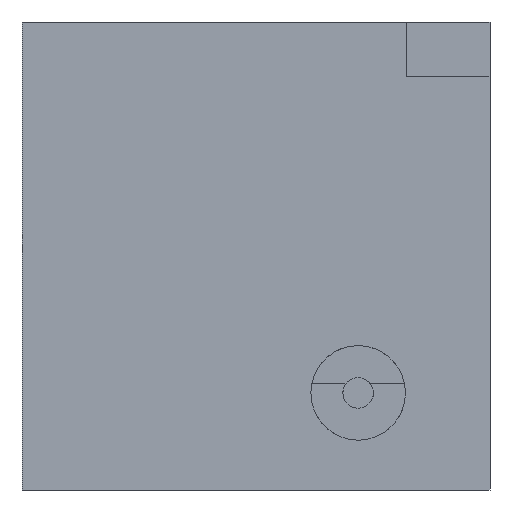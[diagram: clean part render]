
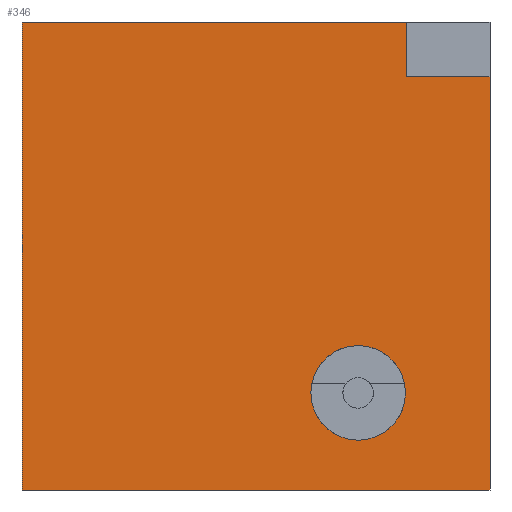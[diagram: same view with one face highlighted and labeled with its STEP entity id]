
A CAD part, front view. The second image highlights one B-rep face of the part: STEP entity #346.
In plain terms, the highlighted planar face has unit normal (0, -1, 0).
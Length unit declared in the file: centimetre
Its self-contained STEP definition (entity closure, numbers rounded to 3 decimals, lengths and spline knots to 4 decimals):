
#5 = PLANE ( 'NONE',  #1586 ) ;
#124 = EDGE_LOOP ( 'NONE', ( #505, #965, #1036, #295, #1476, #1469 ) ) ;
#145 = VECTOR ( 'NONE', #1052, 100. ) ;
#161 = CARTESIAN_POINT ( 'NONE',  ( 1000., 0., 0. ) ) ;
#177 = DIRECTION ( 'NONE',  ( 0., 0., -1. ) ) ;
#207 = CARTESIAN_POINT ( 'NONE',  ( 0., 0., 1000. ) ) ;
#213 = VERTEX_POINT ( 'NONE', #915 ) ;
#237 = CARTESIAN_POINT ( 'NONE',  ( 821.2885, 0., 1000. ) ) ;
#267 = ORIENTED_EDGE ( 'NONE', *, *, #785, .F. ) ;
#269 = DIRECTION ( 'NONE',  ( 0., 0., -1. ) ) ;
#284 = CARTESIAN_POINT ( 'NONE',  ( 821.2885, 0., 883.1346 ) ) ;
#291 = LINE ( 'NONE', #312, #1573 ) ;
#294 = DIRECTION ( 'NONE',  ( 0., 1., 0. ) ) ;
#295 = ORIENTED_EDGE ( 'NONE', *, *, #1323, .T. ) ;
#312 = CARTESIAN_POINT ( 'NONE',  ( 0., 0., 1000. ) ) ;
#333 = EDGE_CURVE ( 'NONE', #1118, #792, #1462, .T. ) ;
#338 = CARTESIAN_POINT ( 'NONE',  ( 0., 0., 1000. ) ) ;
#346 = ADVANCED_FACE ( 'NONE', ( #949, #671 ), #5, .F. ) ;
#359 = EDGE_CURVE ( 'NONE', #1602, #792, #934, .T. ) ;
#374 = DIRECTION ( 'NONE',  ( 1., 0., 0. ) ) ;
#436 = CARTESIAN_POINT ( 'NONE',  ( 821.2885, 0., 883.1346 ) ) ;
#505 = ORIENTED_EDGE ( 'NONE', *, *, #877, .F. ) ;
#526 = LINE ( 'NONE', #643, #1710 ) ;
#537 = CARTESIAN_POINT ( 'NONE',  ( 0., 0., 0. ) ) ;
#539 = VECTOR ( 'NONE', #1332, 100. ) ;
#554 = DIRECTION ( 'NONE',  ( 0., 0., -1. ) ) ;
#628 = CARTESIAN_POINT ( 'NONE',  ( 0., 0., 0. ) ) ;
#643 = CARTESIAN_POINT ( 'NONE',  ( 821.2885, 0., 883.1346 ) ) ;
#665 = CARTESIAN_POINT ( 'NONE',  ( 0., 0., 1000. ) ) ;
#671 = FACE_OUTER_BOUND ( 'NONE', #124, .T. ) ;
#705 = VERTEX_POINT ( 'NONE', #237 ) ;
#760 = EDGE_CURVE ( 'NONE', #1549, #213, #1702, .T. ) ;
#785 = EDGE_CURVE ( 'NONE', #213, #1549, #875, .T. ) ;
#792 = VERTEX_POINT ( 'NONE', #161 ) ;
#797 = DIRECTION ( 'NONE',  ( 1., 0., 0. ) ) ;
#869 = LINE ( 'NONE', #207, #1067 ) ;
#875 = CIRCLE ( 'NONE', #1594, 101.0214 ) ;
#877 = EDGE_CURVE ( 'NONE', #1388, #1118, #1352, .T. ) ;
#915 = CARTESIAN_POINT ( 'NONE',  ( 718.2567, 0., 106.4225 ) ) ;
#920 = DIRECTION ( 'NONE',  ( 0., 0., -1. ) ) ;
#922 = CARTESIAN_POINT ( 'NONE',  ( 1000., 0., 1000. ) ) ;
#934 = LINE ( 'NONE', #537, #145 ) ;
#935 = EDGE_LOOP ( 'NONE', ( #267, #1236 ) ) ;
#949 = FACE_BOUND ( 'NONE', #935, .T. ) ;
#965 = ORIENTED_EDGE ( 'NONE', *, *, #1203, .F. ) ;
#1002 = AXIS2_PLACEMENT_3D ( 'NONE', #1308, #1706, #269 ) ;
#1036 = ORIENTED_EDGE ( 'NONE', *, *, #1480, .F. ) ;
#1050 = DIRECTION ( 'NONE',  ( 0., -1., 0. ) ) ;
#1052 = DIRECTION ( 'NONE',  ( 1., 0., 0. ) ) ;
#1067 = VECTOR ( 'NONE', #374, 100. ) ;
#1118 = VERTEX_POINT ( 'NONE', #1233 ) ;
#1187 = DIRECTION ( 'NONE',  ( 0., 0., 1. ) ) ;
#1189 = CARTESIAN_POINT ( 'NONE',  ( 718.2567, 0., 207.4439 ) ) ;
#1203 = EDGE_CURVE ( 'NONE', #705, #1388, #526, .T. ) ;
#1233 = CARTESIAN_POINT ( 'NONE',  ( 1000., 0., 883.1346 ) ) ;
#1236 = ORIENTED_EDGE ( 'NONE', *, *, #760, .F. ) ;
#1308 = CARTESIAN_POINT ( 'NONE',  ( 718.2567, 0., 207.4439 ) ) ;
#1323 = EDGE_CURVE ( 'NONE', #1644, #1602, #291, .T. ) ;
#1332 = DIRECTION ( 'NONE',  ( 0., 0., -1. ) ) ;
#1345 = VECTOR ( 'NONE', #797, 100. ) ;
#1352 = LINE ( 'NONE', #284, #1345 ) ;
#1388 = VERTEX_POINT ( 'NONE', #436 ) ;
#1430 = CARTESIAN_POINT ( 'NONE',  ( 718.2567, 0., 308.4653 ) ) ;
#1462 = LINE ( 'NONE', #922, #539 ) ;
#1469 = ORIENTED_EDGE ( 'NONE', *, *, #333, .F. ) ;
#1476 = ORIENTED_EDGE ( 'NONE', *, *, #359, .T. ) ;
#1480 = EDGE_CURVE ( 'NONE', #1644, #705, #869, .T. ) ;
#1549 = VERTEX_POINT ( 'NONE', #1430 ) ;
#1573 = VECTOR ( 'NONE', #177, 100. ) ;
#1586 = AXIS2_PLACEMENT_3D ( 'NONE', #665, #294, #1187 ) ;
#1594 = AXIS2_PLACEMENT_3D ( 'NONE', #1189, #1050, #554 ) ;
#1602 = VERTEX_POINT ( 'NONE', #628 ) ;
#1644 = VERTEX_POINT ( 'NONE', #338 ) ;
#1702 = CIRCLE ( 'NONE', #1002, 101.0214 ) ;
#1706 = DIRECTION ( 'NONE',  ( 0., -1., 0. ) ) ;
#1710 = VECTOR ( 'NONE', #920, 100. ) ;
